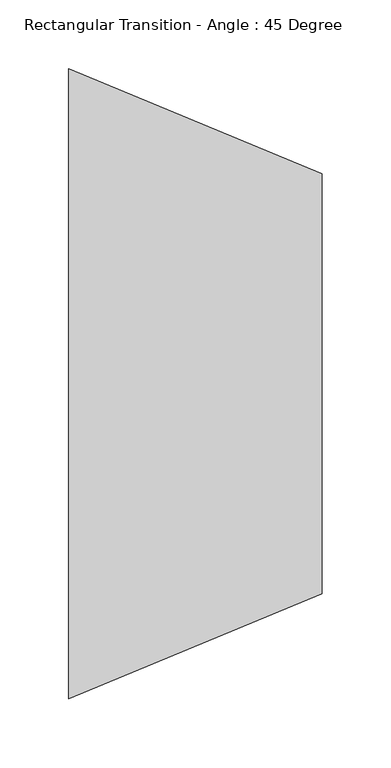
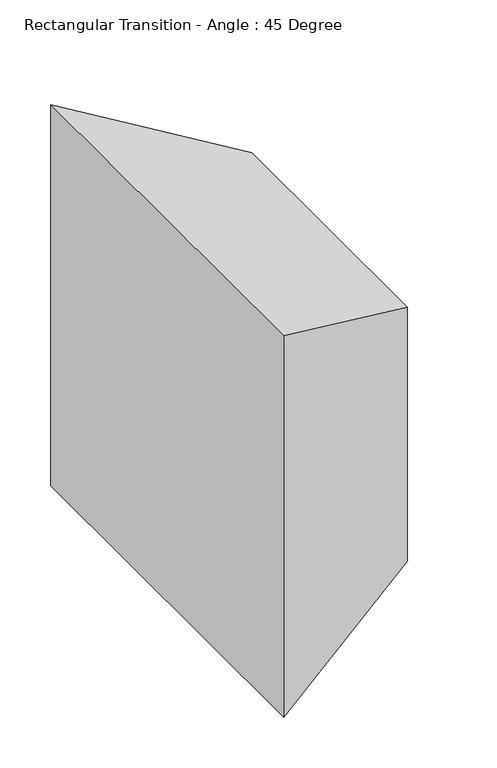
"""IFC4 building model written with IfcOpenShell, lengths in millimetres: duct fitting geometry, Rectangular Transition - Angle : 45 Degree."""

from ifc_helpers import new_model, si_unit, origin, place, context, project, spatial, faceted_brep, source, transform, mapped, element, save


def rectangular_transition_angle_45_degree_b9bd8765(model_context):
    return source(origin(), model_context, "Body", "Brep", [
        faceted_brep([(183.9630735, -152.4, 152.4), (183.9630735, -152.4, -152.4), (183.9630735, 152.4, -152.4), (183.9630735, 152.4, 152.4), (0.0, -228.6, 228.6), (0.0, 228.6, 228.6), (0.0, 228.6, -228.6), (0.0, -228.6, -228.6)], [[[0, 1, 2, 3]], [[4, 5, 6, 7]], [[4, 7, 1, 0]], [[7, 6, 2, 1]], [[6, 5, 3, 2]], [[5, 4, 0, 3]]]),
    ])


if __name__ == "__main__":
    model = new_model("IFC4")
    model_context = context("Model", 3, world=origin())
    ifc_project = project(units=[si_unit("LENGTHUNIT", "METRE", prefix="MILLI")], contexts=[model_context])
    site = spatial("IfcSite", under=ifc_project)
    building = spatial("IfcBuilding", under=site)
    placement = place(None, origin())
    rectangular_transition_angle_45_degree_shape = rectangular_transition_angle_45_degree_b9bd8765(model_context)
    element("IfcDuctFitting", 1, ObjectType="Rectangular Transition - Angle : 45 Degree", at=placement, inside=building, context=model_context, shape_type="MappedRepresentation", body=[
        mapped(rectangular_transition_angle_45_degree_shape, transform((0.0, 0.0, 0.0), x_axis=(1.0, 0.0, 0.0), y_axis=(0.0, 1.0, 0.0), z_axis=(0.0, 0.0, 1.0))),
    ])
    save(model, "model.ifc")
